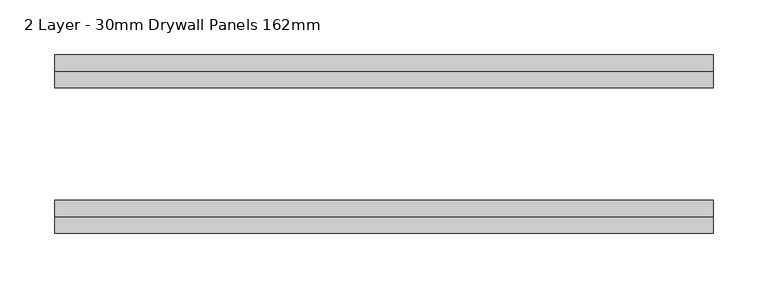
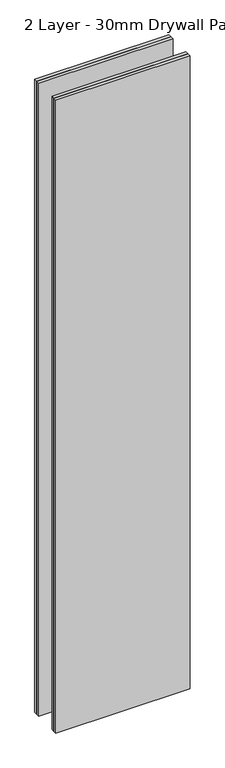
"""IFC4 building model written with IfcOpenShell, lengths in millimetres: plate geometry, 4 LayerS - Drywall Panels : 2 Layer - 30mm Drywall Panels 162mm."""

from ifc_helpers import new_model, si_unit, origin, origin_with_axes, place, context, project, spatial, polyline, outline, extrude, source, transform, mapped, element, save


def plate_2_layer_30mm_drywall_panels_162mm_d42060e6(model_context):
    return source(origin(), model_context, "Body", "SweptSolid", [
        extrude(outline(polyline([(299.2000002, 66.0), (-299.2000002, 66.0), (-299.2000002, 81.0), (299.2000002, 81.0), (299.2000002, 66.0)])), origin_with_axes(), (0.0, 0.0, 1.0), 2979.4),
        extrude(outline(polyline([(299.2000002, -66.0), (-299.2000002, -66.0), (-299.2000002, -51.0), (299.2000002, -51.0), (299.2000002, -66.0)])), origin_with_axes(), (0.0, 0.0, 1.0), 2979.4),
        extrude(outline(polyline([(299.2000002, 51.0), (-299.2000002, 51.0), (-299.2000002, 66.0), (299.2000002, 66.0), (299.2000002, 51.0)])), origin_with_axes(), (0.0, 0.0, 1.0), 2979.4),
        extrude(outline(polyline([(299.2000002, -66.0), (299.2000002, -81.0), (-299.2000002, -81.0), (-299.2000002, -66.0), (299.2000002, -66.0)])), origin_with_axes(), (0.0, 0.0, 1.0), 2979.4),
    ])


if __name__ == "__main__":
    model = new_model("IFC4")
    model_context = context("Model", 3, world=origin())
    ifc_project = project(units=[si_unit("LENGTHUNIT", "METRE", prefix="MILLI")], contexts=[model_context])
    site = spatial("IfcSite", under=ifc_project)
    building = spatial("IfcBuilding", under=site)
    placement = place(None, origin())
    plate_2_layer_30mm_drywall_panels_162mm_shape = plate_2_layer_30mm_drywall_panels_162mm_d42060e6(model_context)
    element("IfcPlate", 1, ObjectType="4 LayerS - Drywall Panels : 2 Layer - 30mm Drywall Panels 162mm", at=placement, inside=building, context=model_context, shape_type="MappedRepresentation", body=[
        mapped(plate_2_layer_30mm_drywall_panels_162mm_shape, transform((0.0, 0.0, 0.0), x_axis=(1.0, 0.0, 0.0), y_axis=(0.0, 1.0, 0.0), z_axis=(0.0, 0.0, 1.0))),
    ])
    save(model, "model.ifc")
